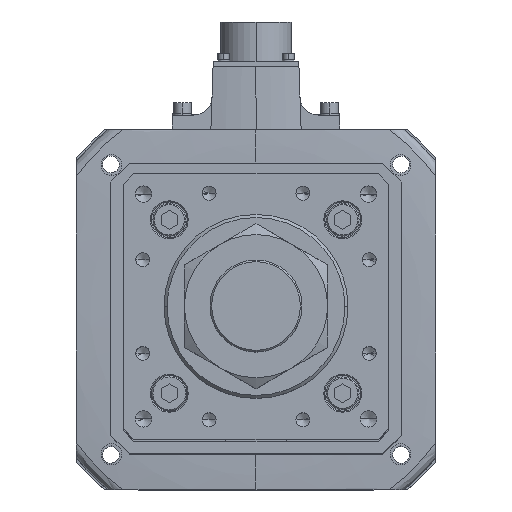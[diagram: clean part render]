
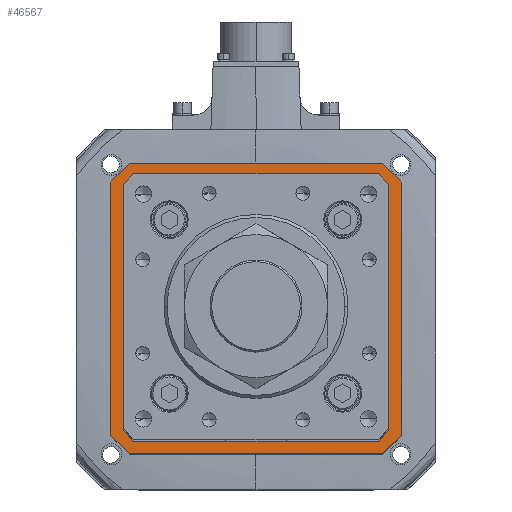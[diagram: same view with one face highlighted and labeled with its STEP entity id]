
A CAD part, top view. The second image highlights one B-rep face of the part: STEP entity #46567.
In plain terms, the highlighted planar face has unit normal (0, 0, 1).
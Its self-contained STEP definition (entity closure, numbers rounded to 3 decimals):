
#511 = LINE ( 'NONE', #3756, #20426 ) ;
#803 = CARTESIAN_POINT ( 'NONE',  ( -63., 0., -142. ) ) ;
#829 = VERTEX_POINT ( 'NONE', #987 ) ;
#987 = CARTESIAN_POINT ( 'NONE',  ( 63., -58.793, -142. ) ) ;
#1244 = VECTOR ( 'NONE', #2233, 1000. ) ;
#1566 = VERTEX_POINT ( 'NONE', #28313 ) ;
#1674 = VECTOR ( 'NONE', #43393, 1000. ) ;
#2233 = DIRECTION ( 'NONE',  ( 0., -1., 0. ) ) ;
#3353 = ORIENTED_EDGE ( 'NONE', *, *, #30296, .F. ) ;
#3756 = CARTESIAN_POINT ( 'NONE',  ( -60.896, 60.896, -142. ) ) ;
#3965 = CARTESIAN_POINT ( 'NONE',  ( -58.793, 63., -142. ) ) ;
#5445 = VERTEX_POINT ( 'NONE', #10708 ) ;
#5701 = CARTESIAN_POINT ( 'NONE',  ( 71., -62., -142. ) ) ;
#5985 = ORIENTED_EDGE ( 'NONE', *, *, #7331, .F. ) ;
#6149 = VERTEX_POINT ( 'NONE', #40926 ) ;
#6298 = CARTESIAN_POINT ( 'NONE',  ( 63., 58.793, -142. ) ) ;
#6322 = CARTESIAN_POINT ( 'NONE',  ( 60.896, -60.896, -142. ) ) ;
#6375 = DIRECTION ( 'NONE',  ( 0., 0., 1. ) ) ;
#6460 = CARTESIAN_POINT ( 'NONE',  ( 58.793, 63., -142. ) ) ;
#7132 = CARTESIAN_POINT ( 'NONE',  ( -63., 58.793, -142. ) ) ;
#7331 = EDGE_CURVE ( 'NONE', #47894, #33147, #31293, .T. ) ;
#8410 = DIRECTION ( 'NONE',  ( 0.707, 0.707, 0. ) ) ;
#8518 = CARTESIAN_POINT ( 'NONE',  ( -62., 71., -142. ) ) ;
#8586 = CARTESIAN_POINT ( 'NONE',  ( 62., 71., -142. ) ) ;
#9152 = DIRECTION ( 'NONE',  ( -1., 0., 0. ) ) ;
#10708 = CARTESIAN_POINT ( 'NONE',  ( 58.793, -63., -142. ) ) ;
#10982 = CARTESIAN_POINT ( 'NONE',  ( -71., 62., -142. ) ) ;
#12907 = ORIENTED_EDGE ( 'NONE', *, *, #23105, .T. ) ;
#13470 = CARTESIAN_POINT ( 'NONE',  ( -62., -71., -142. ) ) ;
#13841 = VECTOR ( 'NONE', #44947, 1000. ) ;
#13977 = ORIENTED_EDGE ( 'NONE', *, *, #44845, .T. ) ;
#14956 = CARTESIAN_POINT ( 'NONE',  ( 71., 62., -142. ) ) ;
#15306 = LINE ( 'NONE', #51361, #16653 ) ;
#15365 = VERTEX_POINT ( 'NONE', #6298 ) ;
#15782 = VECTOR ( 'NONE', #52548, 1000. ) ;
#15794 = ORIENTED_EDGE ( 'NONE', *, *, #37338, .T. ) ;
#16222 = ORIENTED_EDGE ( 'NONE', *, *, #50727, .T. ) ;
#16653 = VECTOR ( 'NONE', #9152, 1000. ) ;
#16800 = VERTEX_POINT ( 'NONE', #50870 ) ;
#17284 = CARTESIAN_POINT ( 'NONE',  ( -60.896, -60.896, -142. ) ) ;
#17864 = VERTEX_POINT ( 'NONE', #46090 ) ;
#18439 = ORIENTED_EDGE ( 'NONE', *, *, #49009, .F. ) ;
#18727 = DIRECTION ( 'NONE',  ( 0.707, -0.707, 0. ) ) ;
#18794 = DIRECTION ( 'NONE',  ( 1., 0., 0. ) ) ;
#19821 = LINE ( 'NONE', #6322, #13841 ) ;
#19876 = CARTESIAN_POINT ( 'NONE',  ( 62., -71., -142. ) ) ;
#20426 = VECTOR ( 'NONE', #8410, 1000. ) ;
#21354 = EDGE_CURVE ( 'NONE', #17864, #32630, #37081, .T. ) ;
#22542 = CARTESIAN_POINT ( 'NONE',  ( 0., 63., -142. ) ) ;
#22756 = VERTEX_POINT ( 'NONE', #28934 ) ;
#22797 = DIRECTION ( 'NONE',  ( 0., -1., 0. ) ) ;
#23105 = EDGE_CURVE ( 'NONE', #51298, #48295, #29021, .T. ) ;
#23755 = LINE ( 'NONE', #19876, #40498 ) ;
#24286 = ORIENTED_EDGE ( 'NONE', *, *, #33751, .F. ) ;
#24910 = LINE ( 'NONE', #17284, #35639 ) ;
#25145 = ORIENTED_EDGE ( 'NONE', *, *, #37757, .T. ) ;
#25174 = FACE_OUTER_BOUND ( 'NONE', #32023, .T. ) ;
#26083 = VECTOR ( 'NONE', #42025, 1000. ) ;
#26603 = DIRECTION ( 'NONE',  ( -0.707, 0.707, 0. ) ) ;
#26940 = ORIENTED_EDGE ( 'NONE', *, *, #29736, .F. ) ;
#27021 = VECTOR ( 'NONE', #18794, 1000. ) ;
#27297 = CARTESIAN_POINT ( 'NONE',  ( -58.793, -63., -142. ) ) ;
#27946 = LINE ( 'NONE', #40317, #1244 ) ;
#28035 = DIRECTION ( 'NONE',  ( 0.707, -0.707, 0. ) ) ;
#28313 = CARTESIAN_POINT ( 'NONE',  ( -62., -71., -142. ) ) ;
#28934 = CARTESIAN_POINT ( 'NONE',  ( -63., -58.793, -142. ) ) ;
#29021 = LINE ( 'NONE', #22542, #27021 ) ;
#29597 = CARTESIAN_POINT ( 'NONE',  ( 62., 71., -142. ) ) ;
#29736 = EDGE_CURVE ( 'NONE', #16800, #17864, #35841, .T. ) ;
#30000 = ORIENTED_EDGE ( 'NONE', *, *, #43787, .F. ) ;
#30064 = VECTOR ( 'NONE', #35496, 1000. ) ;
#30296 = EDGE_CURVE ( 'NONE', #6149, #1566, #23755, .T. ) ;
#31293 = LINE ( 'NONE', #14956, #37253 ) ;
#31729 = ORIENTED_EDGE ( 'NONE', *, *, #21354, .F. ) ;
#32023 = EDGE_LOOP ( 'NONE', ( #30000, #31729, #26940, #24286, #3353, #39652, #5985, #18439 ) ) ;
#32106 = DIRECTION ( 'NONE',  ( 0., 1., 0. ) ) ;
#32630 = VERTEX_POINT ( 'NONE', #8518 ) ;
#32685 = LINE ( 'NONE', #35730, #50718 ) ;
#33147 = VERTEX_POINT ( 'NONE', #42069 ) ;
#33380 = VERTEX_POINT ( 'NONE', #7132 ) ;
#33403 = EDGE_LOOP ( 'NONE', ( #45843, #25145, #40696, #16222, #40068, #15794, #12907, #13977 ) ) ;
#33751 = EDGE_CURVE ( 'NONE', #1566, #16800, #49488, .T. ) ;
#34135 = CARTESIAN_POINT ( 'NONE',  ( 71., 62., -142. ) ) ;
#34710 = AXIS2_PLACEMENT_3D ( 'NONE', #49490, #6375, #40352 ) ;
#34824 = EDGE_CURVE ( 'NONE', #5445, #37039, #15306, .T. ) ;
#35009 = CARTESIAN_POINT ( 'NONE',  ( -62., 71., -142. ) ) ;
#35496 = DIRECTION ( 'NONE',  ( 0., 1., 0. ) ) ;
#35639 = VECTOR ( 'NONE', #26603, 1000. ) ;
#35730 = CARTESIAN_POINT ( 'NONE',  ( 60.896, 60.896, -142. ) ) ;
#35841 = LINE ( 'NONE', #10982, #45185 ) ;
#36427 = PLANE ( 'NONE',  #34710 ) ;
#36531 = FACE_BOUND ( 'NONE', #33403, .T. ) ;
#36673 = EDGE_CURVE ( 'NONE', #33147, #6149, #48533, .T. ) ;
#37039 = VERTEX_POINT ( 'NONE', #27297 ) ;
#37060 = DIRECTION ( 'NONE',  ( -1., 0., 0. ) ) ;
#37081 = LINE ( 'NONE', #35009, #1674 ) ;
#37253 = VECTOR ( 'NONE', #22797, 1000. ) ;
#37338 = EDGE_CURVE ( 'NONE', #33380, #51298, #511, .T. ) ;
#37757 = EDGE_CURVE ( 'NONE', #829, #5445, #19821, .T. ) ;
#39652 = ORIENTED_EDGE ( 'NONE', *, *, #36673, .F. ) ;
#40068 = ORIENTED_EDGE ( 'NONE', *, *, #41498, .T. ) ;
#40307 = DIRECTION ( 'NONE',  ( -0.707, 0.707, 0. ) ) ;
#40317 = CARTESIAN_POINT ( 'NONE',  ( 63., 0., -142. ) ) ;
#40352 = DIRECTION ( 'NONE',  ( 1., 0., 0. ) ) ;
#40498 = VECTOR ( 'NONE', #37060, 1000. ) ;
#40696 = ORIENTED_EDGE ( 'NONE', *, *, #34824, .T. ) ;
#40739 = CARTESIAN_POINT ( 'NONE',  ( 71., 62., -142. ) ) ;
#40816 = VECTOR ( 'NONE', #40307, 1000. ) ;
#40926 = CARTESIAN_POINT ( 'NONE',  ( 62., -71., -142. ) ) ;
#41450 = LINE ( 'NONE', #8586, #26083 ) ;
#41498 = EDGE_CURVE ( 'NONE', #22756, #33380, #51997, .T. ) ;
#42025 = DIRECTION ( 'NONE',  ( 1., 0., 0. ) ) ;
#42069 = CARTESIAN_POINT ( 'NONE',  ( 71., -62., -142. ) ) ;
#43380 = VERTEX_POINT ( 'NONE', #29597 ) ;
#43393 = DIRECTION ( 'NONE',  ( 0.707, 0.707, 0. ) ) ;
#43787 = EDGE_CURVE ( 'NONE', #32630, #43380, #41450, .T. ) ;
#44845 = EDGE_CURVE ( 'NONE', #48295, #15365, #32685, .T. ) ;
#44947 = DIRECTION ( 'NONE',  ( -0.707, -0.707, 0. ) ) ;
#45185 = VECTOR ( 'NONE', #32106, 1000. ) ;
#45225 = EDGE_CURVE ( 'NONE', #15365, #829, #27946, .T. ) ;
#45843 = ORIENTED_EDGE ( 'NONE', *, *, #45225, .T. ) ;
#46090 = CARTESIAN_POINT ( 'NONE',  ( -71., 62., -142. ) ) ;
#46567 = ADVANCED_FACE ( 'NONE', ( #36531, #25174 ), #36427, .T. ) ;
#47161 = LINE ( 'NONE', #40739, #47798 ) ;
#47798 = VECTOR ( 'NONE', #28035, 1000. ) ;
#47894 = VERTEX_POINT ( 'NONE', #34135 ) ;
#48295 = VERTEX_POINT ( 'NONE', #6460 ) ;
#48533 = LINE ( 'NONE', #5701, #15782 ) ;
#49009 = EDGE_CURVE ( 'NONE', #43380, #47894, #47161, .T. ) ;
#49488 = LINE ( 'NONE', #13470, #40816 ) ;
#49490 = CARTESIAN_POINT ( 'NONE',  ( 0., 0., -142. ) ) ;
#50718 = VECTOR ( 'NONE', #18727, 1000. ) ;
#50727 = EDGE_CURVE ( 'NONE', #37039, #22756, #24910, .T. ) ;
#50870 = CARTESIAN_POINT ( 'NONE',  ( -71., -62., -142. ) ) ;
#51298 = VERTEX_POINT ( 'NONE', #3965 ) ;
#51361 = CARTESIAN_POINT ( 'NONE',  ( 0., -63., -142. ) ) ;
#51997 = LINE ( 'NONE', #803, #30064 ) ;
#52548 = DIRECTION ( 'NONE',  ( -0.707, -0.707, 0. ) ) ;
